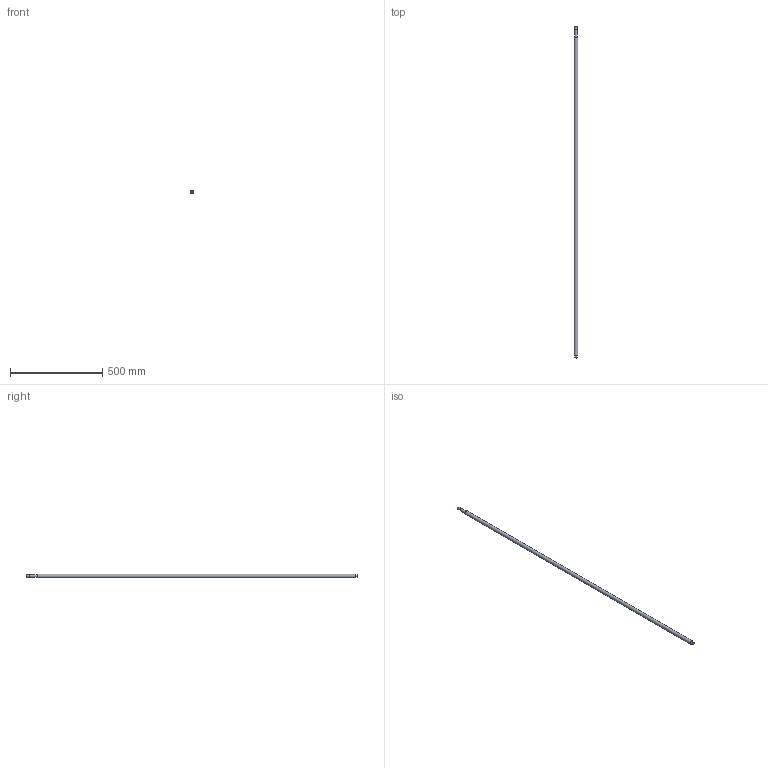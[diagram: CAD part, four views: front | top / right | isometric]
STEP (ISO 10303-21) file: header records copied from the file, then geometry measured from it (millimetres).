
FILE_DESCRIPTION(/* description */ (''),/* implementation_level */ '2;1');
FILE_NAME(/* name */ 'C:\Users\David\Desktop\stepFiles\Profilfuehrung\KUS2010x1800.stp',/* time_stamp */ '2018-06-24T15:12:51+02:00',/* author */ ('David'),/* organization */ (''),/* preprocessor_version */ 'ST-DEVELOPER v17',/* originating_system */ 'Autodesk Inventor 2019',/* authorisation */ '');
FILE_SCHEMA (('AUTOMOTIVE_DESIGN { 1 0 10303 214 3 1 1 }'));
Length unit declared in the file: millimetre
Products named in the file (1): SFU2005xvaiabel
Bounding box: 20 x 1800 x 20 mm (x, y, z)
Volume: 554152 mm3; surface area: 112394.7 mm2
Topology: 1 solids, 1 shells, 15 faces, 34 edges, 26 vertices
Faces by surface type: plane 7, cylinder 6, cone 2
Full cylindrical faces by diameter (mm): 12 x1, 14.3 x1, 15 x3, 20 x1
Entity records: 493 total; most frequent: DIRECTION 92, CARTESIAN_POINT 76, ORIENTED_EDGE 68, AXIS2_PLACEMENT_3D 42, EDGE_CURVE 34, CIRCLE 26, VERTEX_POINT 26, EDGE_LOOP 20
